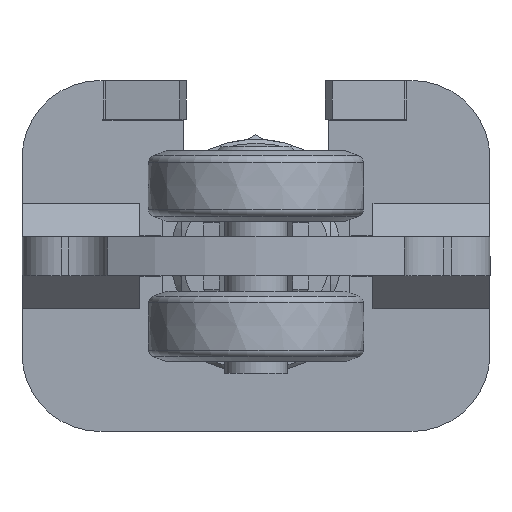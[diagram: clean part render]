
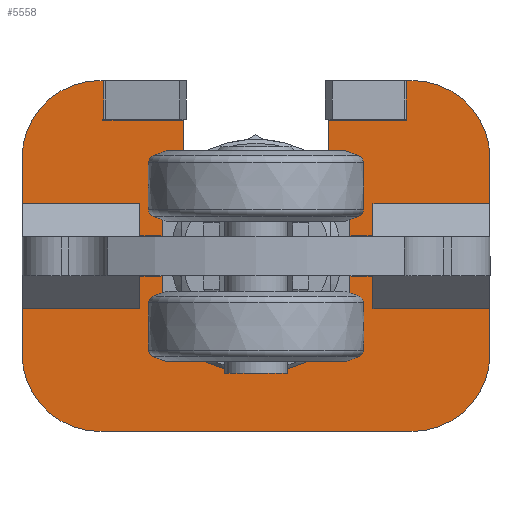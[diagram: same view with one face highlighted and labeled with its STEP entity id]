
A CAD part, front view. The second image highlights one B-rep face of the part: STEP entity #5558.
In plain terms, the highlighted planar face has unit normal (0, -1, 0) as drawn and (0, 0, 1) by its records, which use the part's own axes.
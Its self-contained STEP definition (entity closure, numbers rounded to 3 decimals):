
#166=FACE_BOUND('',#1073,.T.);
#167=FACE_BOUND('',#1074,.T.);
#254=CIRCLE('',#5936,10.);
#255=CIRCLE('',#5937,10.);
#256=CIRCLE('',#5938,10.);
#257=CIRCLE('',#5939,10.);
#258=CIRCLE('',#5940,9.25);
#733=FACE_OUTER_BOUND('',#1072,.T.);
#1072=EDGE_LOOP('',(#3984,#3985,#3986,#3987,#3988,#3989,#3990,#3991,#3992,
#3993,#3994,#3995,#3996,#3997,#3998,#3999,#4000,#4001,#4002,#4003));
#1073=EDGE_LOOP('',(#4004,#4005,#4006,#4007));
#1074=EDGE_LOOP('',(#4008,#4009,#4010,#4011));
#1515=LINE('',#8487,#1987);
#1527=LINE('',#8511,#1999);
#1531=LINE('',#8519,#2003);
#1533=LINE('',#8523,#2005);
#1536=LINE('',#8529,#2008);
#1537=LINE('',#8533,#2009);
#1538=LINE('',#8537,#2010);
#1539=LINE('',#8541,#2011);
#1540=LINE('',#8545,#2012);
#1541=LINE('',#8547,#2013);
#1542=LINE('',#8549,#2014);
#1543=LINE('',#8551,#2015);
#1544=LINE('',#8553,#2016);
#1545=LINE('',#8555,#2017);
#1546=LINE('',#8558,#2018);
#1547=LINE('',#8561,#2019);
#1548=LINE('',#8563,#2020);
#1549=LINE('',#8565,#2021);
#1550=LINE('',#8566,#2022);
#1551=LINE('',#8569,#2023);
#1552=LINE('',#8571,#2024);
#1553=LINE('',#8573,#2025);
#1554=LINE('',#8574,#2026);
#1987=VECTOR('',#6737,5.);
#1999=VECTOR('',#6763,0.1);
#2003=VECTOR('',#6769,0.1);
#2005=VECTOR('',#6773,10.379);
#2008=VECTOR('',#6778,0.471);
#2009=VECTOR('',#6781,25.);
#2010=VECTOR('',#6784,40.);
#2011=VECTOR('',#6787,25.);
#2012=VECTOR('',#6790,0.75);
#2013=VECTOR('',#6791,5.);
#2014=VECTOR('',#6792,0.1);
#2015=VECTOR('',#6793,0.1);
#2016=VECTOR('',#6794,10.1);
#2017=VECTOR('',#6795,17.45);
#2018=VECTOR('',#6798,17.45);
#2019=VECTOR('',#6799,5.2);
#2020=VECTOR('',#6800,15.7);
#2021=VECTOR('',#6801,5.2);
#2022=VECTOR('',#6802,15.7);
#2023=VECTOR('',#6803,5.2);
#2024=VECTOR('',#6804,15.7);
#2025=VECTOR('',#6805,5.2);
#2026=VECTOR('',#6806,15.7);
#2438=VERTEX_POINT('',#8474);
#2441=VERTEX_POINT('',#8481);
#2447=VERTEX_POINT('',#8510);
#2450=VERTEX_POINT('',#8518);
#2451=VERTEX_POINT('',#8522);
#2453=VERTEX_POINT('',#8528);
#2454=VERTEX_POINT('',#8530);
#2455=VERTEX_POINT('',#8532);
#2456=VERTEX_POINT('',#8534);
#2457=VERTEX_POINT('',#8536);
#2458=VERTEX_POINT('',#8538);
#2459=VERTEX_POINT('',#8540);
#2460=VERTEX_POINT('',#8542);
#2461=VERTEX_POINT('',#8544);
#2462=VERTEX_POINT('',#8546);
#2463=VERTEX_POINT('',#8548);
#2464=VERTEX_POINT('',#8550);
#2465=VERTEX_POINT('',#8552);
#2466=VERTEX_POINT('',#8554);
#2467=VERTEX_POINT('',#8556);
#2468=VERTEX_POINT('',#8559);
#2469=VERTEX_POINT('',#8560);
#2470=VERTEX_POINT('',#8562);
#2471=VERTEX_POINT('',#8564);
#2472=VERTEX_POINT('',#8567);
#2473=VERTEX_POINT('',#8568);
#2474=VERTEX_POINT('',#8570);
#2475=VERTEX_POINT('',#8572);
#3027=EDGE_CURVE('',#2438,#2441,#1515,.T.);
#3039=EDGE_CURVE('',#2447,#2438,#1527,.T.);
#3043=EDGE_CURVE('',#2450,#2447,#1531,.T.);
#3045=EDGE_CURVE('',#2450,#2451,#1533,.T.);
#3048=EDGE_CURVE('',#2453,#2441,#1536,.T.);
#3049=EDGE_CURVE('',#2454,#2453,#254,.T.);
#3050=EDGE_CURVE('',#2455,#2454,#1537,.T.);
#3051=EDGE_CURVE('',#2456,#2455,#255,.T.);
#3052=EDGE_CURVE('',#2457,#2456,#1538,.T.);
#3053=EDGE_CURVE('',#2458,#2457,#256,.T.);
#3054=EDGE_CURVE('',#2459,#2458,#1539,.T.);
#3055=EDGE_CURVE('',#2460,#2459,#257,.T.);
#3056=EDGE_CURVE('',#2461,#2460,#1540,.T.);
#3057=EDGE_CURVE('',#2461,#2462,#1541,.T.);
#3058=EDGE_CURVE('',#2462,#2463,#1542,.T.);
#3059=EDGE_CURVE('',#2463,#2464,#1543,.T.);
#3060=EDGE_CURVE('',#2464,#2465,#1544,.T.);
#3061=EDGE_CURVE('',#2466,#2465,#1545,.T.);
#3062=EDGE_CURVE('',#2467,#2466,#258,.T.);
#3063=EDGE_CURVE('',#2451,#2467,#1546,.T.);
#3064=EDGE_CURVE('',#2468,#2469,#1547,.T.);
#3065=EDGE_CURVE('',#2469,#2470,#1548,.T.);
#3066=EDGE_CURVE('',#2470,#2471,#1549,.T.);
#3067=EDGE_CURVE('',#2471,#2468,#1550,.T.);
#3068=EDGE_CURVE('',#2472,#2473,#1551,.T.);
#3069=EDGE_CURVE('',#2473,#2474,#1552,.T.);
#3070=EDGE_CURVE('',#2474,#2475,#1553,.T.);
#3071=EDGE_CURVE('',#2475,#2472,#1554,.T.);
#3984=ORIENTED_EDGE('',*,*,#3045,.F.);
#3985=ORIENTED_EDGE('',*,*,#3043,.T.);
#3986=ORIENTED_EDGE('',*,*,#3039,.T.);
#3987=ORIENTED_EDGE('',*,*,#3027,.T.);
#3988=ORIENTED_EDGE('',*,*,#3048,.F.);
#3989=ORIENTED_EDGE('',*,*,#3049,.F.);
#3990=ORIENTED_EDGE('',*,*,#3050,.F.);
#3991=ORIENTED_EDGE('',*,*,#3051,.F.);
#3992=ORIENTED_EDGE('',*,*,#3052,.F.);
#3993=ORIENTED_EDGE('',*,*,#3053,.F.);
#3994=ORIENTED_EDGE('',*,*,#3054,.F.);
#3995=ORIENTED_EDGE('',*,*,#3055,.F.);
#3996=ORIENTED_EDGE('',*,*,#3056,.F.);
#3997=ORIENTED_EDGE('',*,*,#3057,.T.);
#3998=ORIENTED_EDGE('',*,*,#3058,.T.);
#3999=ORIENTED_EDGE('',*,*,#3059,.T.);
#4000=ORIENTED_EDGE('',*,*,#3060,.T.);
#4001=ORIENTED_EDGE('',*,*,#3061,.F.);
#4002=ORIENTED_EDGE('',*,*,#3062,.F.);
#4003=ORIENTED_EDGE('',*,*,#3063,.F.);
#4004=ORIENTED_EDGE('',*,*,#3064,.T.);
#4005=ORIENTED_EDGE('',*,*,#3065,.T.);
#4006=ORIENTED_EDGE('',*,*,#3066,.T.);
#4007=ORIENTED_EDGE('',*,*,#3067,.T.);
#4008=ORIENTED_EDGE('',*,*,#3068,.T.);
#4009=ORIENTED_EDGE('',*,*,#3069,.T.);
#4010=ORIENTED_EDGE('',*,*,#3070,.T.);
#4011=ORIENTED_EDGE('',*,*,#3071,.T.);
#5363=PLANE('',#5935);
#5558=ADVANCED_FACE('',(#733,#166,#167),#5363,.T.);
#5935=AXIS2_PLACEMENT_3D('',#8527,#6776,#6777);
#5936=AXIS2_PLACEMENT_3D('',#8531,#6779,#6780);
#5937=AXIS2_PLACEMENT_3D('',#8535,#6782,#6783);
#5938=AXIS2_PLACEMENT_3D('',#8539,#6785,#6786);
#5939=AXIS2_PLACEMENT_3D('',#8543,#6788,#6789);
#5940=AXIS2_PLACEMENT_3D('',#8557,#6796,#6797);
#6737=DIRECTION('',(0.,-1.,0.));
#6763=DIRECTION('',(-1.,0.,0.));
#6769=DIRECTION('',(0.,-1.,0.));
#6773=DIRECTION('',(-1.,0.,0.));
#6776=DIRECTION('center_axis',(0.,0.,1.));
#6777=DIRECTION('ref_axis',(1.,0.,0.));
#6778=DIRECTION('',(-1.,0.,0.));
#6779=DIRECTION('center_axis',(0.,0.,-1.));
#6780=DIRECTION('ref_axis',(0.,-1.,0.));
#6781=DIRECTION('',(0.,-1.,0.));
#6782=DIRECTION('center_axis',(0.,0.,-1.));
#6783=DIRECTION('ref_axis',(1.,0.,0.));
#6784=DIRECTION('',(1.,0.,0.));
#6785=DIRECTION('center_axis',(0.,0.,-1.));
#6786=DIRECTION('ref_axis',(0.,1.,0.));
#6787=DIRECTION('',(0.,1.,0.));
#6788=DIRECTION('center_axis',(0.,0.,-1.));
#6789=DIRECTION('ref_axis',(-1.,0.,0.));
#6790=DIRECTION('',(-1.,0.,0.));
#6791=DIRECTION('',(0.,1.,0.));
#6792=DIRECTION('',(-1.,0.,0.));
#6793=DIRECTION('',(0.,1.,0.));
#6794=DIRECTION('',(1.,0.,0.));
#6795=DIRECTION('',(0.,-1.,0.));
#6796=DIRECTION('center_axis',(0.,0.,1.));
#6797=DIRECTION('ref_axis',(-1.,0.,0.));
#6798=DIRECTION('',(0.,1.,0.));
#6799=DIRECTION('',(0.,-1.,0.));
#6800=DIRECTION('',(-1.,0.,0.));
#6801=DIRECTION('',(0.,1.,0.));
#6802=DIRECTION('',(1.,0.,0.));
#6803=DIRECTION('',(0.,-1.,0.));
#6804=DIRECTION('',(-1.,0.,0.));
#6805=DIRECTION('',(0.,1.,0.));
#6806=DIRECTION('',(1.,0.,0.));
#8474=CARTESIAN_POINT('',(19.529,-17.5,5.));
#8481=CARTESIAN_POINT('',(19.529,-22.5,5.));
#8487=CARTESIAN_POINT('',(19.529,-12.346,5.));
#8510=CARTESIAN_POINT('',(19.629,-17.5,5.));
#8511=CARTESIAN_POINT('',(9.435,-17.5,5.));
#8518=CARTESIAN_POINT('',(19.629,-17.4,5.));
#8519=CARTESIAN_POINT('',(19.629,-9.846,5.));
#8522=CARTESIAN_POINT('',(9.25,-17.4,5.));
#8523=CARTESIAN_POINT('',(9.25,-17.4,5.));
#8527=CARTESIAN_POINT('Origin',(0.,-2.192,
5.));
#8528=CARTESIAN_POINT('',(20.,-22.5,5.));
#8529=CARTESIAN_POINT('',(-20.,-22.5,5.));
#8530=CARTESIAN_POINT('',(30.,-12.5,5.));
#8531=CARTESIAN_POINT('Origin',(20.,-12.5,5.));
#8532=CARTESIAN_POINT('',(30.,12.5,5.));
#8533=CARTESIAN_POINT('',(30.,-12.5,5.));
#8534=CARTESIAN_POINT('',(20.,22.5,5.));
#8535=CARTESIAN_POINT('Origin',(20.,12.5,5.));
#8536=CARTESIAN_POINT('',(-20.,22.5,5.));
#8537=CARTESIAN_POINT('',(20.,22.5,5.));
#8538=CARTESIAN_POINT('',(-30.,12.5,5.));
#8539=CARTESIAN_POINT('Origin',(-20.,12.5,5.));
#8540=CARTESIAN_POINT('',(-30.,-12.5,5.));
#8541=CARTESIAN_POINT('',(-30.,12.5,5.));
#8542=CARTESIAN_POINT('',(-20.,-22.5,5.));
#8543=CARTESIAN_POINT('Origin',(-20.,-12.5,5.));
#8544=CARTESIAN_POINT('',(-19.25,-22.5,5.));
#8545=CARTESIAN_POINT('',(-20.,-22.5,5.));
#8546=CARTESIAN_POINT('',(-19.25,-17.5,5.));
#8547=CARTESIAN_POINT('',(-19.25,-9.846,5.));
#8548=CARTESIAN_POINT('',(-19.35,-17.5,5.));
#8549=CARTESIAN_POINT('',(-9.675,-17.5,5.));
#8550=CARTESIAN_POINT('',(-19.35,-17.4,5.));
#8551=CARTESIAN_POINT('',(-19.35,-9.796,5.));
#8552=CARTESIAN_POINT('',(-9.25,-17.4,5.));
#8553=CARTESIAN_POINT('',(-9.296,-17.4,5.));
#8554=CARTESIAN_POINT('',(-9.25,0.05,5.));
#8555=CARTESIAN_POINT('',(-9.25,-17.4,5.));
#8556=CARTESIAN_POINT('',(9.25,0.05,5.));
#8557=CARTESIAN_POINT('Origin',(0.,0.05,
5.));
#8558=CARTESIAN_POINT('',(9.25,0.05,5.));
#8559=CARTESIAN_POINT('',(-12.3,2.6,5.));
#8560=CARTESIAN_POINT('',(-12.3,-2.6,5.));
#8561=CARTESIAN_POINT('',(-12.3,0.204,5.));
#8562=CARTESIAN_POINT('',(-28.,-2.6,5.));
#8563=CARTESIAN_POINT('',(-6.15,-2.6,5.));
#8564=CARTESIAN_POINT('',(-28.,2.6,5.));
#8565=CARTESIAN_POINT('',(-28.,-2.396,5.));
#8566=CARTESIAN_POINT('',(-14.,2.6,5.));
#8567=CARTESIAN_POINT('',(28.,2.6,5.));
#8568=CARTESIAN_POINT('',(28.,-2.6,5.));
#8569=CARTESIAN_POINT('',(28.,0.204,5.));
#8570=CARTESIAN_POINT('',(12.3,-2.6,5.));
#8571=CARTESIAN_POINT('',(14.,-2.6,5.));
#8572=CARTESIAN_POINT('',(12.3,2.6,5.));
#8573=CARTESIAN_POINT('',(12.3,-2.396,5.));
#8574=CARTESIAN_POINT('',(6.15,2.6,5.));
